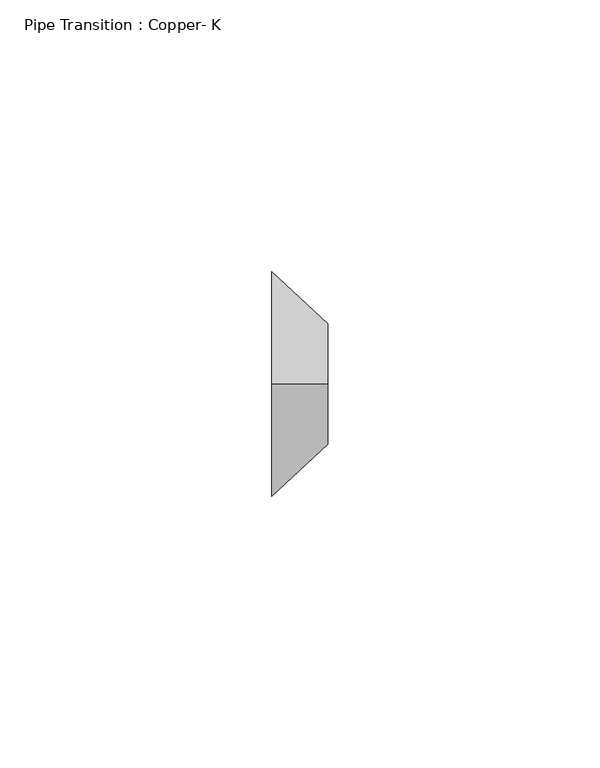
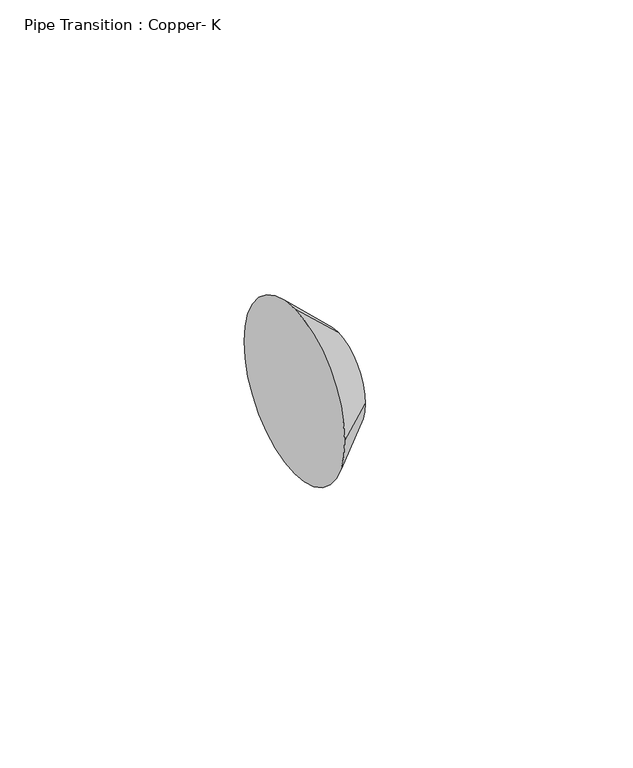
"""IFC4 building model written with IfcOpenShell, lengths in millimetres: pipe fitting geometry, Pipe Transition : Copper- K."""

from ifc_helpers import new_model, si_unit, frame, origin, place, context, project, spatial, polyline, circle_curve, source, transform, mapped, element, save
from ifc_brep_helpers import plane_surface, revolved_surface, advanced_brep


def pipe_transition_copper_k_92c68de2(model_context):
    return source(origin(), model_context, "Body", "AdvancedBrep", [
        advanced_brep(
        [(10.31875, 0.0, 11.1125), (10.31875, -11.1125, 0.0), (10.31875, 0.0, -11.1125), (10.31875, 11.1125, 0.0), (0.0, 0.0, 20.6375), (0.0, 20.6375, 0.0), (0.0, 0.0, -20.6375), (0.0, -20.6375, 0.0)],
        [
            (0, 1, circle_curve(frame((10.31875, 0.0, 0.0), z_axis=(1.0, 0.0, 0.0), x_axis=(0.0, -1.0, 0.0)), 11.1125)),
            (1, 2, circle_curve(frame((10.31875, 0.0, 0.0), z_axis=(1.0, 0.0, 0.0), x_axis=(0.0, 0.0, -1.0)), 11.1125)),
            (2, 3, circle_curve(frame((10.31875, 0.0, 0.0), z_axis=(1.0, 0.0, 0.0), x_axis=(0.0, 1.0, 0.0)), 11.1125)),
            (3, 0, circle_curve(frame((10.31875, 0.0, 0.0), z_axis=(1.0, 0.0, 0.0), x_axis=(0.0, 0.0, 1.0)), 11.1125)),
            (4, 5, circle_curve(frame((0.0, 0.0, 0.0), z_axis=(-1.0, 0.0, 0.0), x_axis=(0.0, 0.0, 1.0)), 20.6375)),
            (5, 6, circle_curve(frame((0.0, 0.0, 0.0), z_axis=(-1.0, 0.0, 0.0), x_axis=(0.0, 1.0, 0.0)), 20.6375)),
            (6, 7, circle_curve(frame((0.0, 0.0, 0.0), z_axis=(-1.0, 0.0, 0.0), x_axis=(0.0, 0.0, -1.0)), 20.6375)),
            (7, 4, circle_curve(frame((0.0, 0.0, 0.0), z_axis=(-1.0, 0.0, 0.0), x_axis=(0.0, -1.0, 0.0)), 20.6375)),
            (4, 0),
            (3, 5),
            (2, 6),
            (1, 7),
        ],
        [
            plane_surface(frame((10.31875, 0.0, 0.0), z_axis=(1.0, 0.0, 0.0), x_axis=(0.0, 1.0, 0.0))),
            plane_surface(frame((0.0, 0.0, 0.0), z_axis=(-1.0, 0.0, 0.0), x_axis=(0.0, 1.0, 0.0))),
            revolved_surface(polyline([(10.31875, 0.0, 11.112500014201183), (0.0, 0.0, 20.6375)]), (22.3572917, 0.0, 0.0), (-1.0, 0.0, 0.0)),
            revolved_surface(polyline([(10.31875, 11.112500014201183, 0.0), (0.0, 20.6375, 0.0)]), (22.3572917, 0.0, 0.0), (-1.0, 0.0, 0.0)),
            revolved_surface(polyline([(10.31875, 0.0, -11.112500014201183), (0.0, 0.0, -20.6375)]), (22.3572917, 0.0, 0.0), (-1.0, 0.0, 0.0)),
            revolved_surface(polyline([(10.31875, -11.112500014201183, 0.0), (0.0, -20.6375, 0.0)]), (22.3572917, 0.0, 0.0), (-1.0, 0.0, 0.0)),
        ],
        [
            (0, [[1, 2, 3, 4]]),
            (1, [[5, 6, 7, 8]]),
            (2, [[9, -4, 10, -5]]),
            (3, [[-10, -3, 11, -6]]),
            (4, [[-11, -2, 12, -7]]),
            (5, [[-12, -1, -9, -8]]),
        ],
    ),
        advanced_brep(
        [(10.31875, 0.0, 11.1125), (10.31875, -11.1125, 0.0), (10.31875, 0.0, -11.1125), (10.31875, 11.1125, 0.0), (0.0, 0.0, 20.6375), (0.0, 20.6375, 0.0), (0.0, 0.0, -20.6375), (0.0, -20.6375, 0.0)],
        [
            (0, 1, circle_curve(frame((10.31875, 0.0, 0.0), z_axis=(1.0, 0.0, 0.0), x_axis=(0.0, -1.0, 0.0)), 11.1125)),
            (1, 2, circle_curve(frame((10.31875, 0.0, 0.0), z_axis=(1.0, 0.0, -1.2689316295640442e-12), x_axis=(-1.2688635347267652e-12, 0.0, -1.0)), 11.1125)),
            (2, 3, circle_curve(frame((10.31875, 0.0, 0.0), z_axis=(1.0, 0.0, 0.0), x_axis=(0.0, 1.0, 0.0)), 11.1125)),
            (3, 0, circle_curve(frame((10.31875, 0.0, 0.0), z_axis=(1.0, 0.0, 0.0), x_axis=(0.0, 0.0, 1.0)), 11.1125)),
            (4, 5, circle_curve(frame((0.0, 0.0, 0.0), z_axis=(-1.0, 0.0, 0.0), x_axis=(0.0, 0.0, 1.0)), 20.6375)),
            (5, 6, circle_curve(frame((0.0, 0.0, 0.0), z_axis=(-1.0, 0.0, 0.0), x_axis=(0.0, 1.0, 0.0)), 20.6375)),
            (6, 7, circle_curve(frame((0.0, 0.0, 0.0), z_axis=(-1.0, 0.0, 1.2689316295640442e-12), x_axis=(-1.2688635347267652e-12, 0.0, -1.0)), 20.6375)),
            (7, 4, circle_curve(frame((0.0, 0.0, 0.0), z_axis=(-1.0, 0.0, 0.0), x_axis=(0.0, -1.0, 0.0)), 20.6375)),
            (4, 0),
            (3, 5),
            (2, 6),
            (1, 7),
        ],
        [
            plane_surface(frame((10.31875, 0.0, 0.0), z_axis=(1.0, 0.0, 0.0), x_axis=(0.0, 1.0, 0.0))),
            plane_surface(frame((0.0, 0.0, 0.0), z_axis=(-1.0, 0.0, 0.0), x_axis=(0.0, 1.0, 0.0))),
            revolved_surface(polyline([(10.31875, 0.0, 11.112500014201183), (0.0, 0.0, 20.6375)]), (22.3572917, 0.0, 0.0), (-1.0, 0.0, 0.0)),
            revolved_surface(polyline([(10.31875, 11.112500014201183, 0.0), (0.0, 20.6375, 0.0)]), (22.3572917, 0.0, 0.0), (-1.0, 0.0, 0.0)),
            revolved_surface(polyline([(10.31875, 0.0, -11.112500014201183), (-2.6187052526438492e-11, 0.0, -20.637500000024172)]), (22.3572917, 0.0, 0.0), (-1.0, 0.0, 1.2689316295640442e-12)),
            revolved_surface(polyline([(10.31875, -11.112500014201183, 0.0), (0.0, -20.6375, 0.0)]), (22.3572917, 0.0, 0.0), (-1.0, 0.0, 0.0)),
        ],
        [
            (0, [[1, 2, 3, 4]]),
            (1, [[5, 6, 7, 8]]),
            (2, [[9, -4, 10, -5]]),
            (3, [[-10, -3, 11, -6]]),
            (4, [[-11, -2, 12, -7]]),
            (5, [[-12, -1, -9, -8]]),
        ],
    ),
    ])


if __name__ == "__main__":
    model = new_model("IFC4")
    model_context = context("Model", 3, world=origin())
    ifc_project = project(units=[si_unit("LENGTHUNIT", "METRE", prefix="MILLI")], contexts=[model_context])
    site = spatial("IfcSite", under=ifc_project)
    building = spatial("IfcBuilding", under=site)
    placement = place(None, origin())
    pipe_transition_copper_k_shape = pipe_transition_copper_k_92c68de2(model_context)
    element("IfcPipeFitting", 1, ObjectType="Pipe Transition : Copper- K", at=placement, inside=building, context=model_context, shape_type="MappedRepresentation", body=[
        mapped(pipe_transition_copper_k_shape, transform((0.0, 0.0, 0.0), x_axis=(1.0, 0.0, 0.0), y_axis=(0.0, 1.0, 0.0), z_axis=(0.0, 0.0, 1.0))),
    ])
    save(model, "model.ifc")
